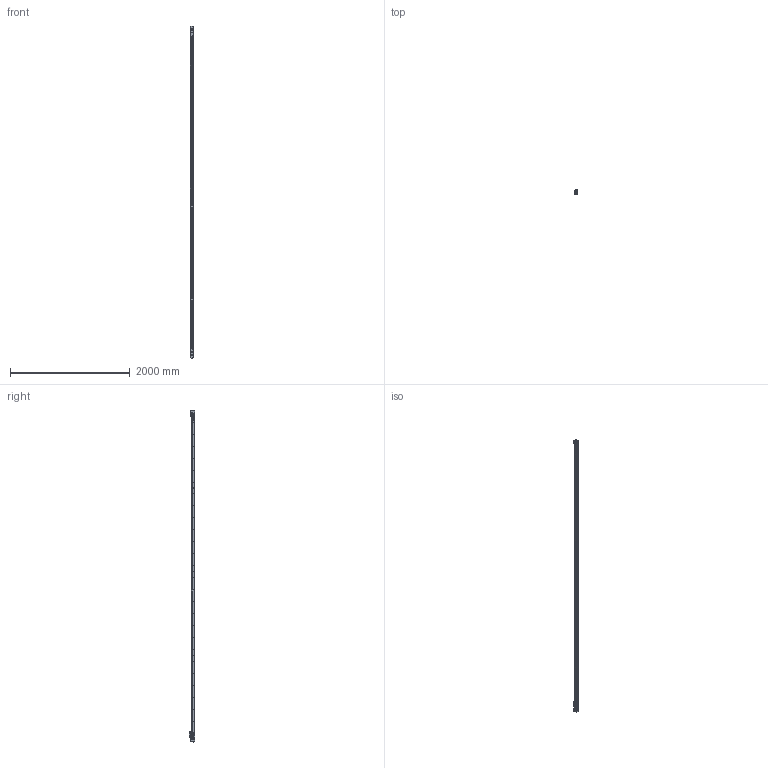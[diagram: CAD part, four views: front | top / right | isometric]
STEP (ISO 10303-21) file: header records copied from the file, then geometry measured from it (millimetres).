
FILE_DESCRIPTION(('Creo Elements/Direct Modeling STEP Export'),'2;1');
FILE_NAME('L-52.stp','2011-11-29T18:32:45',(''),(''),'Creo Elements/Direct Modeling STEP processor for AP214 (Solid Model)','Creo Elements/Direct Modeling 17.0C 05-Feb-2011 (C) Parametric Technology GmbH','');
FILE_SCHEMA(('AUTOMOTIVE_DESIGN { 1 0 10303 214 1 1 1 1 }'));
Length unit declared in the file: millimetre
Products named in the file (5): Modulo_izq_(L-KT); Modulos_intermedio_(FL-14); Modulo_der_(10-ET); CABEZA; L-52
Assembly tree (5 placements, depth 2):
  L-52
    CABEZA
    Modulo_der_(10-ET)
    Modulos_intermedio_(FL-14)  x2
    Modulo_izq_(L-KT)
Bounding box: 51.5 x 87.95 x 5549.1 mm (x, y, z)
Volume: 10880761.4 mm3; surface area: 1684791 mm2
Topology: 26 solids, 80 shells, 3965 faces, 10889 edges, 7017 vertices
Faces by surface type: cylinder 1748, plane 1629, cone 274, torus 169, bspline 89, extrusion 30, sphere 26
Entity records: 124826 total; most frequent: CARTESIAN_POINT 35737, ORIENTED_EDGE 18834, DIRECTION 16736, EDGE_CURVE 9397, VERTEX_POINT 6087, AXIS2_PLACEMENT_3D 5914, VECTOR 4908, LINE 4888
